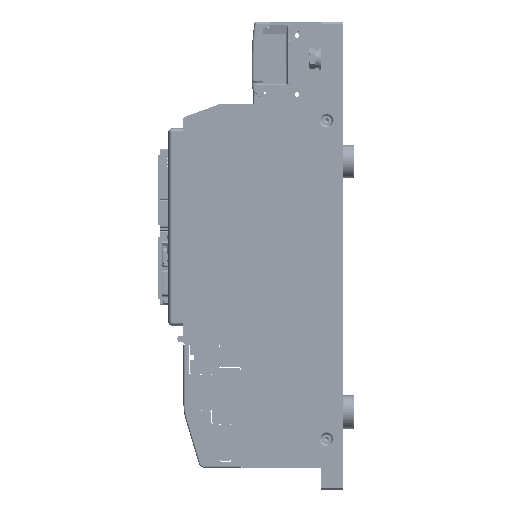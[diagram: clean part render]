
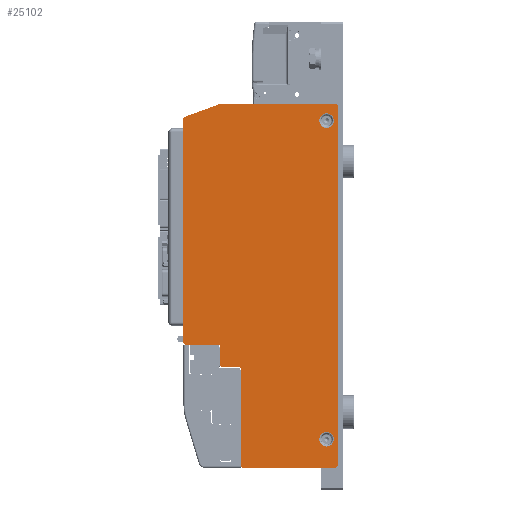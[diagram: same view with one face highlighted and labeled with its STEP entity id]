
A CAD part, left-side view. The second image highlights one B-rep face of the part: STEP entity #25102.
In plain terms, the highlighted planar face has unit normal (-1, 0, 0).
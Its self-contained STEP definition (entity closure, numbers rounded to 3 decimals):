
#19636=CARTESIAN_POINT('',(-146.5,-5.,-184.5));
#19637=DIRECTION('',(-1.,0.,0.));
#19638=DIRECTION('',(0.,1.,0.));
#19639=AXIS2_PLACEMENT_3D('',#19636,#19637,#19638);
#19644=CARTESIAN_POINT('',(-146.5,-5.,-184.5));
#19645=DIRECTION('',(-1.,0.,0.));
#19646=DIRECTION('',(0.,-1.,0.));
#19647=AXIS2_PLACEMENT_3D('',#19644,#19645,#19646);
#19652=CARTESIAN_POINT('',(-146.5,-5.,101.5));
#19653=DIRECTION('',(-1.,0.,0.));
#19654=DIRECTION('',(0.,1.,0.));
#19655=AXIS2_PLACEMENT_3D('',#19652,#19653,#19654);
#19660=CARTESIAN_POINT('',(-146.5,-5.,101.5));
#19661=DIRECTION('',(-1.,0.,0.));
#19662=DIRECTION('',(0.,-1.,0.));
#19663=AXIS2_PLACEMENT_3D('',#19660,#19661,#19662);
#19668=DIRECTION('',(0.,0.,1.));
#19669=VECTOR('',#19668,87.);
#19670=CARTESIAN_POINT('',(-146.5,72.,-208.));
#19671=LINE('',#19670,#19669);
#19675=CARTESIAN_POINT('',(-146.5,73.,-121.));
#19676=DIRECTION('',(-1.,0.,0.));
#19677=DIRECTION('',(0.,-1.,0.));
#19678=AXIS2_PLACEMENT_3D('',#19675,#19676,#19677);
#19683=DIRECTION('',(0.,1.,0.));
#19684=VECTOR('',#19683,15.4);
#19685=CARTESIAN_POINT('',(-146.5,73.,-120.));
#19686=LINE('',#19685,#19684);
#19690=CARTESIAN_POINT('',(-146.5,88.4,-118.));
#19691=DIRECTION('',(-1.,0.,0.));
#19692=DIRECTION('',(0.,1.,0.));
#19693=AXIS2_PLACEMENT_3D('',#19690,#19691,#19692);
#19698=DIRECTION('',(0.,0.,1.));
#19699=VECTOR('',#19698,17.5);
#19700=CARTESIAN_POINT('',(-146.5,90.4,-118.));
#19701=LINE('',#19700,#19699);
#19705=DIRECTION('',(0.,1.,0.));
#19706=VECTOR('',#19705,30.1);
#19707=CARTESIAN_POINT('',(-146.5,91.4,-99.5));
#19708=LINE('',#19707,#19706);
#19712=CARTESIAN_POINT('',(-146.5,121.5,-97.5));
#19713=DIRECTION('',(-1.,0.,0.));
#19714=DIRECTION('',(0.,1.,0.));
#19715=AXIS2_PLACEMENT_3D('',#19712,#19713,#19714);
#19720=DIRECTION('',(0.,0.,1.));
#19721=VECTOR('',#19720,200.6);
#19722=CARTESIAN_POINT('',(-146.5,123.5,-97.5));
#19723=LINE('',#19722,#19721);
#19727=CARTESIAN_POINT('',(-146.5,121.5,103.1));
#19728=DIRECTION('',(1.,0.,0.));
#19729=DIRECTION('',(0.,1.,0.));
#19730=AXIS2_PLACEMENT_3D('',#19727,#19728,#19729);
#19735=DIRECTION('',(0.,-0.94,0.342));
#19736=VECTOR('',#19735,33.333);
#19737=CARTESIAN_POINT('',(-146.5,122.184,104.979));
#19738=LINE('',#19737,#19736);
#19742=CARTESIAN_POINT('',(-146.5,90.178,114.5));
#19743=DIRECTION('',(1.,0.,0.));
#19744=DIRECTION('',(0.,0.342,0.94));
#19745=AXIS2_PLACEMENT_3D('',#19742,#19743,#19744);
#19750=DIRECTION('',(0.,-1.,0.));
#19751=VECTOR('',#19750,103.178);
#19752=CARTESIAN_POINT('',(-146.5,90.178,116.5));
#19753=LINE('',#19752,#19751);
#19757=CARTESIAN_POINT('',(-146.5,-13.,114.5));
#19758=DIRECTION('',(1.,0.,0.));
#19759=DIRECTION('',(0.,0.,1.));
#19760=AXIS2_PLACEMENT_3D('',#19757,#19758,#19759);
#19765=DIRECTION('',(0.,0.,-1.));
#19766=VECTOR('',#19765,322.5);
#19767=CARTESIAN_POINT('',(-146.5,-15.,114.5));
#19768=LINE('',#19767,#19766);
#19772=CARTESIAN_POINT('',(-146.5,-13.,-208.));
#19773=DIRECTION('',(1.,0.,0.));
#19774=DIRECTION('',(0.,-1.,0.));
#19775=AXIS2_PLACEMENT_3D('',#19772,#19773,#19774);
#19780=DIRECTION('',(0.,1.,0.));
#19781=VECTOR('',#19780,83.);
#19782=CARTESIAN_POINT('',(-146.5,-13.,-210.));
#19783=LINE('',#19782,#19781);
#19787=CARTESIAN_POINT('',(-146.5,70.,-208.));
#19788=DIRECTION('',(-1.,0.,0.));
#19789=DIRECTION('',(0.,1.,0.));
#19790=AXIS2_PLACEMENT_3D('',#19787,#19788,#19789);
#21055=CARTESIAN_POINT('',(-146.5,91.4,-100.5));
#21056=DIRECTION('',(1.,0.,0.));
#21057=DIRECTION('',(0.,0.,1.));
#21058=AXIS2_PLACEMENT_3D('',#21055,#21056,#21057);
#23455=CARTESIAN_POINT('',(-146.5,123.5,-97.5));
#23456=CARTESIAN_POINT('',(-146.5,121.5,-99.5));
#23457=VERTEX_POINT('',#23455);
#23458=VERTEX_POINT('',#23456);
#23507=CARTESIAN_POINT('',(-146.5,1.5,-184.5));
#23508=CARTESIAN_POINT('',(-146.5,-11.5,-184.5));
#23509=VERTEX_POINT('',#23507);
#23510=VERTEX_POINT('',#23508);
#23551=CARTESIAN_POINT('',(-146.5,1.5,101.5));
#23552=CARTESIAN_POINT('',(-146.5,-11.5,101.5));
#23553=VERTEX_POINT('',#23551);
#23554=VERTEX_POINT('',#23552);
#23683=CARTESIAN_POINT('',(-146.5,72.,-208.));
#23684=CARTESIAN_POINT('',(-146.5,72.,-121.));
#23685=VERTEX_POINT('',#23683);
#23686=VERTEX_POINT('',#23684);
#23687=CARTESIAN_POINT('',(-146.5,91.4,-99.5));
#23688=VERTEX_POINT('',#23687);
#23699=CARTESIAN_POINT('',(-146.5,90.4,-100.5));
#23700=VERTEX_POINT('',#23699);
#23703=CARTESIAN_POINT('',(-146.5,73.,-120.));
#23704=VERTEX_POINT('',#23703);
#23711=CARTESIAN_POINT('',(-146.5,-15.,114.5));
#23712=CARTESIAN_POINT('',(-146.5,-13.,116.5));
#23713=VERTEX_POINT('',#23711);
#23714=VERTEX_POINT('',#23712);
#23727=CARTESIAN_POINT('',(-146.5,-13.,-210.));
#23728=CARTESIAN_POINT('',(-146.5,-15.,-208.));
#23729=VERTEX_POINT('',#23727);
#23730=VERTEX_POINT('',#23728);
#23743=CARTESIAN_POINT('',(-146.5,70.,-210.));
#23744=VERTEX_POINT('',#23743);
#23751=CARTESIAN_POINT('',(-146.5,90.4,-118.));
#23752=CARTESIAN_POINT('',(-146.5,88.4,-120.));
#23753=VERTEX_POINT('',#23751);
#23754=VERTEX_POINT('',#23752);
#23831=CARTESIAN_POINT('',(-146.5,123.5,103.1));
#23832=CARTESIAN_POINT('',(-146.5,122.184,104.979));
#23833=VERTEX_POINT('',#23831);
#23834=VERTEX_POINT('',#23832);
#23835=CARTESIAN_POINT('',(-146.5,90.862,116.379));
#23836=VERTEX_POINT('',#23835);
#23837=CARTESIAN_POINT('',(-146.5,90.178,116.5));
#23838=VERTEX_POINT('',#23837);
#25047=CARTESIAN_POINT('',(-146.5,123.5,15.));
#25048=DIRECTION('',(1.,0.,0.));
#25049=DIRECTION('',(0.,0.,-1.));
#25050=AXIS2_PLACEMENT_3D('',#25047,#25048,#25049);
#25051=PLANE('',#25050);
#25053=ORIENTED_EDGE('',*,*,#25052,.T.);
#25055=ORIENTED_EDGE('',*,*,#25054,.T.);
#25057=ORIENTED_EDGE('',*,*,#25056,.T.);
#25059=ORIENTED_EDGE('',*,*,#25058,.F.);
#25061=ORIENTED_EDGE('',*,*,#25060,.T.);
#25063=ORIENTED_EDGE('',*,*,#25062,.F.);
#25065=ORIENTED_EDGE('',*,*,#25064,.T.);
#25067=ORIENTED_EDGE('',*,*,#25066,.F.);
#25069=ORIENTED_EDGE('',*,*,#25068,.T.);
#25071=ORIENTED_EDGE('',*,*,#25070,.T.);
#25073=ORIENTED_EDGE('',*,*,#25072,.T.);
#25075=ORIENTED_EDGE('',*,*,#25074,.T.);
#25077=ORIENTED_EDGE('',*,*,#25076,.T.);
#25079=ORIENTED_EDGE('',*,*,#25078,.T.);
#25081=ORIENTED_EDGE('',*,*,#25080,.T.);
#25083=ORIENTED_EDGE('',*,*,#25082,.T.);
#25085=ORIENTED_EDGE('',*,*,#25084,.T.);
#25087=ORIENTED_EDGE('',*,*,#25086,.F.);
#25088=EDGE_LOOP('',(#25053,#25055,#25057,#25059,#25061,#25063,#25065,#25067,
#25069,#25071,#25073,#25075,#25077,#25079,#25081,#25083,#25085,#25087));
#25089=FACE_OUTER_BOUND('',#25088,.F.);
#25091=ORIENTED_EDGE('',*,*,#25090,.T.);
#25093=ORIENTED_EDGE('',*,*,#25092,.T.);
#25094=EDGE_LOOP('',(#25091,#25093));
#25095=FACE_BOUND('',#25094,.F.);
#25097=ORIENTED_EDGE('',*,*,#25096,.T.);
#25099=ORIENTED_EDGE('',*,*,#25098,.T.);
#25100=EDGE_LOOP('',(#25097,#25099));
#25101=FACE_BOUND('',#25100,.F.);
#25102=ADVANCED_FACE('',(#25089,#25095,#25101),#25051,.F.);
#19640=CIRCLE('',#19639,6.5);
#19648=CIRCLE('',#19647,6.5);
#19656=CIRCLE('',#19655,6.5);
#19664=CIRCLE('',#19663,6.5);
#19679=CIRCLE('',#19678,1.);
#19694=CIRCLE('',#19693,2.);
#19716=CIRCLE('',#19715,2.);
#19731=CIRCLE('',#19730,2.);
#19746=CIRCLE('',#19745,2.);
#19761=CIRCLE('',#19760,2.);
#19776=CIRCLE('',#19775,2.);
#19791=CIRCLE('',#19790,2.);
#21059=CIRCLE('',#21058,1.);
#25052=EDGE_CURVE('',#23685,#23686,#19671,.T.);
#25054=EDGE_CURVE('',#23686,#23704,#19679,.T.);
#25056=EDGE_CURVE('',#23704,#23754,#19686,.T.);
#25058=EDGE_CURVE('',#23753,#23754,#19694,.T.);
#25060=EDGE_CURVE('',#23753,#23700,#19701,.T.);
#25062=EDGE_CURVE('',#23688,#23700,#21059,.T.);
#25064=EDGE_CURVE('',#23688,#23458,#19708,.T.);
#25066=EDGE_CURVE('',#23457,#23458,#19716,.T.);
#25068=EDGE_CURVE('',#23457,#23833,#19723,.T.);
#25070=EDGE_CURVE('',#23833,#23834,#19731,.T.);
#25072=EDGE_CURVE('',#23834,#23836,#19738,.T.);
#25074=EDGE_CURVE('',#23836,#23838,#19746,.T.);
#25076=EDGE_CURVE('',#23838,#23714,#19753,.T.);
#25078=EDGE_CURVE('',#23714,#23713,#19761,.T.);
#25080=EDGE_CURVE('',#23713,#23730,#19768,.T.);
#25082=EDGE_CURVE('',#23730,#23729,#19776,.T.);
#25084=EDGE_CURVE('',#23729,#23744,#19783,.T.);
#25086=EDGE_CURVE('',#23685,#23744,#19791,.T.);
#25090=EDGE_CURVE('',#23509,#23510,#19640,.T.);
#25092=EDGE_CURVE('',#23510,#23509,#19648,.T.);
#25096=EDGE_CURVE('',#23553,#23554,#19656,.T.);
#25098=EDGE_CURVE('',#23554,#23553,#19664,.T.);
